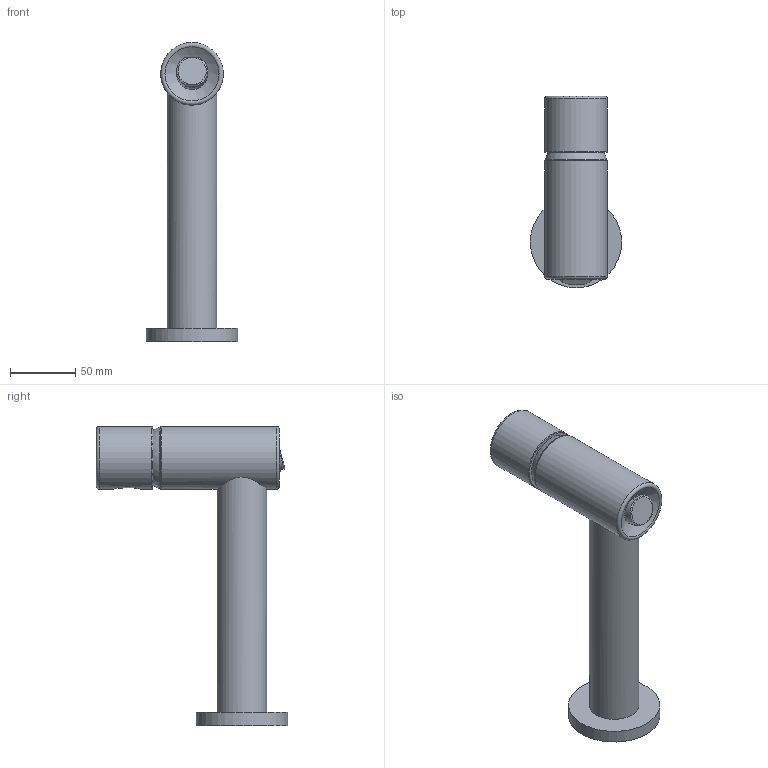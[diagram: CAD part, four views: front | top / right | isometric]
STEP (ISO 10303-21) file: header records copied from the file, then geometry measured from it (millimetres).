
FILE_DESCRIPTION (( 'STEP AP203' ), '1' );
FILE_NAME ('8510.STEP', '2017-03-09T06:01:52', ( '' ), ( '' ), 'SwSTEP 2.0', 'SolidWorks 2016', '' );
FILE_SCHEMA (( 'CONFIG_CONTROL_DESIGN' ));
Length unit declared in the file: millimetre
Products named in the file (1): 8510
Bounding box: 69.97 x 146.35 x 229 mm (x, y, z)
Volume: 484396.4 mm3; surface area: 54109.2 mm2
Topology: 1 solids, 1 shells, 24 faces, 48 edges, 32 vertices
Faces by surface type: plane 10, cylinder 5, torus 5, sphere 2, bspline 1, cone 1
Full cylindrical faces by diameter (mm): 38 x1, 48 x2, 70 x1
Entity records: 1174 total; most frequent: CARTESIAN_POINT 664, DIRECTION 94, ORIENTED_EDGE 64, AXIS2_PLACEMENT_3D 44, EDGE_LOOP 41, FACE_OUTER_BOUND 34, EDGE_CURVE 32, VERTEX_POINT 27
